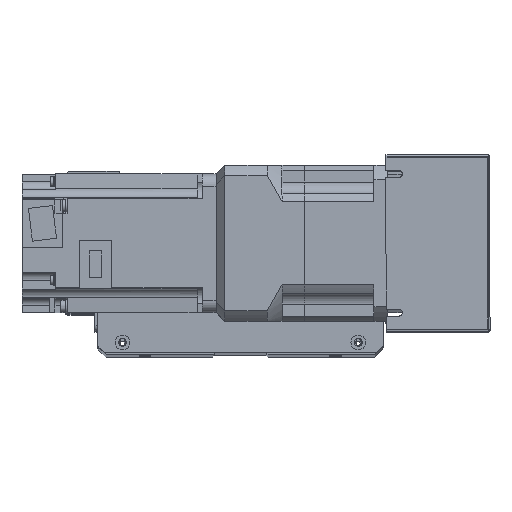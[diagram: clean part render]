
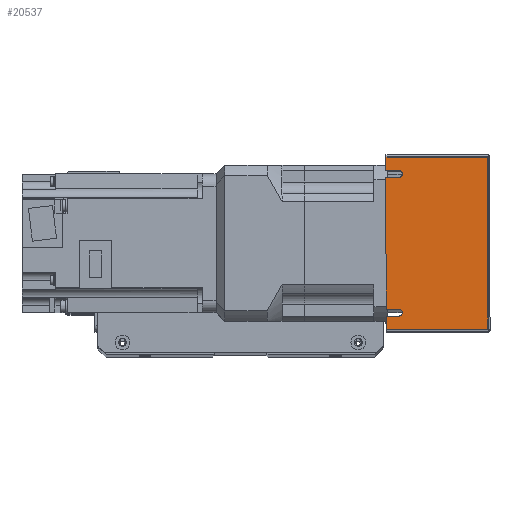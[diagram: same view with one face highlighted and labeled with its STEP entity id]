
A CAD part, top view. The second image highlights one B-rep face of the part: STEP entity #20537.
In plain terms, the highlighted planar face has unit normal (0, 0, 1) as drawn and (-1, 0, 0) by its records, which use the part's own axes.
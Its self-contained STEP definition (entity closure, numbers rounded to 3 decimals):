
#542=PLANE('',#22337);
#1630=LINE('',#32554,#3290);
#1636=LINE('',#32568,#3296);
#1648=LINE('',#32595,#3308);
#1658=LINE('',#32617,#3318);
#1666=LINE('',#32636,#3326);
#1667=LINE('',#32639,#3327);
#1668=LINE('',#32641,#3328);
#1669=LINE('',#32643,#3329);
#1670=LINE('',#32645,#3330);
#1671=LINE('',#32646,#3331);
#3290=VECTOR('',#26463,10.);
#3296=VECTOR('',#26473,10.);
#3308=VECTOR('',#26491,10.);
#3318=VECTOR('',#26505,10.);
#3326=VECTOR('',#26527,10.);
#3327=VECTOR('',#26530,10.);
#3328=VECTOR('',#26531,10.);
#3329=VECTOR('',#26532,10.);
#3330=VECTOR('',#26533,10.);
#3331=VECTOR('',#26534,10.);
#5296=FACE_OUTER_BOUND('',#6708,.T.);
#6708=EDGE_LOOP('',(#15980,#15981,#15982,#15983,#15984,#15985,#15986,#15987,
#15988,#15989,#15990,#15991));
#8126=CIRCLE('',#22333,2.);
#8129=CIRCLE('',#22338,2.);
#9543=VERTEX_POINT('',#32551);
#9544=VERTEX_POINT('',#32553);
#9549=VERTEX_POINT('',#32566);
#9550=VERTEX_POINT('',#32567);
#9561=VERTEX_POINT('',#32593);
#9562=VERTEX_POINT('',#32594);
#9571=VERTEX_POINT('',#32614);
#9572=VERTEX_POINT('',#32616);
#9577=VERTEX_POINT('',#32638);
#9578=VERTEX_POINT('',#32640);
#9579=VERTEX_POINT('',#32642);
#9580=VERTEX_POINT('',#32644);
#11875=EDGE_CURVE('',#9543,#9544,#1630,.T.);
#11881=EDGE_CURVE('',#9549,#9550,#1636,.T.);
#11893=EDGE_CURVE('',#9561,#9562,#1648,.T.);
#11903=EDGE_CURVE('',#9571,#9572,#1658,.T.);
#11906=EDGE_CURVE('',#9550,#9543,#8126,.T.);
#11915=EDGE_CURVE('',#9549,#9572,#1666,.T.);
#11916=EDGE_CURVE('',#9562,#9571,#8129,.T.);
#11917=EDGE_CURVE('',#9561,#9577,#1667,.T.);
#11918=EDGE_CURVE('',#9577,#9578,#1668,.T.);
#11919=EDGE_CURVE('',#9578,#9579,#1669,.T.);
#11920=EDGE_CURVE('',#9579,#9580,#1670,.T.);
#11921=EDGE_CURVE('',#9580,#9544,#1671,.T.);
#15980=ORIENTED_EDGE('',*,*,#11875,.F.);
#15981=ORIENTED_EDGE('',*,*,#11906,.F.);
#15982=ORIENTED_EDGE('',*,*,#11881,.F.);
#15983=ORIENTED_EDGE('',*,*,#11915,.T.);
#15984=ORIENTED_EDGE('',*,*,#11903,.F.);
#15985=ORIENTED_EDGE('',*,*,#11916,.F.);
#15986=ORIENTED_EDGE('',*,*,#11893,.F.);
#15987=ORIENTED_EDGE('',*,*,#11917,.T.);
#15988=ORIENTED_EDGE('',*,*,#11918,.T.);
#15989=ORIENTED_EDGE('',*,*,#11919,.T.);
#15990=ORIENTED_EDGE('',*,*,#11920,.T.);
#15991=ORIENTED_EDGE('',*,*,#11921,.T.);
#20537=ADVANCED_FACE('',(#5296),#542,.F.);
#22333=AXIS2_PLACEMENT_3D('',#32621,#26511,#26512);
#22337=AXIS2_PLACEMENT_3D('',#32635,#26525,#26526);
#22338=AXIS2_PLACEMENT_3D('',#32637,#26528,#26529);
#26463=DIRECTION('',(0.,0.,-1.));
#26473=DIRECTION('',(0.,0.,1.));
#26491=DIRECTION('',(0.,0.,1.));
#26505=DIRECTION('',(0.,0.,-1.));
#26511=DIRECTION('center_axis',(-1.,0.,0.));
#26512=DIRECTION('ref_axis',(0.,0.,1.));
#26525=DIRECTION('center_axis',(1.,0.,0.));
#26526=DIRECTION('ref_axis',(0.,-1.,0.));
#26527=DIRECTION('',(0.,-1.,0.));
#26528=DIRECTION('center_axis',(-1.,0.,0.));
#26529=DIRECTION('ref_axis',(0.,0.,1.));
#26530=DIRECTION('',(0.,-1.,0.));
#26531=DIRECTION('',(0.,0.,1.));
#26532=DIRECTION('',(0.,1.,0.));
#26533=DIRECTION('',(0.,0.,-1.));
#26534=DIRECTION('',(0.,-1.,0.));
#32551=CARTESIAN_POINT('',(-120.5,42.,-22.5));
#32553=CARTESIAN_POINT('',(-120.5,42.,-30.));
#32554=CARTESIAN_POINT('',(-120.5,42.,-16.304));
#32566=CARTESIAN_POINT('',(-120.5,38.,-30.));
#32567=CARTESIAN_POINT('',(-120.5,38.,-22.5));
#32568=CARTESIAN_POINT('',(-120.5,38.,-11.25));
#32593=CARTESIAN_POINT('',(-120.5,-42.,-30.));
#32594=CARTESIAN_POINT('',(-120.5,-42.,-22.5));
#32595=CARTESIAN_POINT('',(-120.5,-42.,-11.25));
#32614=CARTESIAN_POINT('',(-120.5,-38.,-22.5));
#32616=CARTESIAN_POINT('',(-120.5,-38.,-30.));
#32617=CARTESIAN_POINT('',(-120.5,-38.,-16.169));
#32621=CARTESIAN_POINT('Origin',(-120.5,40.,-22.5));
#32635=CARTESIAN_POINT('Origin',(-120.5,51.,0.));
#32636=CARTESIAN_POINT('',(-120.5,-51.,-30.));
#32637=CARTESIAN_POINT('Origin',(-120.5,-40.,-22.5));
#32638=CARTESIAN_POINT('',(-120.5,-50.,-30.));
#32639=CARTESIAN_POINT('',(-120.5,-51.,-30.));
#32640=CARTESIAN_POINT('',(-120.5,-50.,29.));
#32641=CARTESIAN_POINT('',(-120.5,-50.,0.));
#32642=CARTESIAN_POINT('',(-120.5,50.,29.));
#32643=CARTESIAN_POINT('',(-120.5,25.5,29.));
#32644=CARTESIAN_POINT('',(-120.5,50.,-30.));
#32645=CARTESIAN_POINT('',(-120.5,50.,0.));
#32646=CARTESIAN_POINT('',(-120.5,-51.,-30.));
